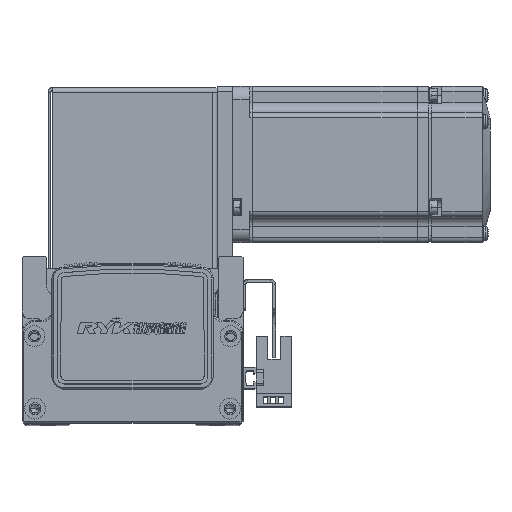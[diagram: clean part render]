
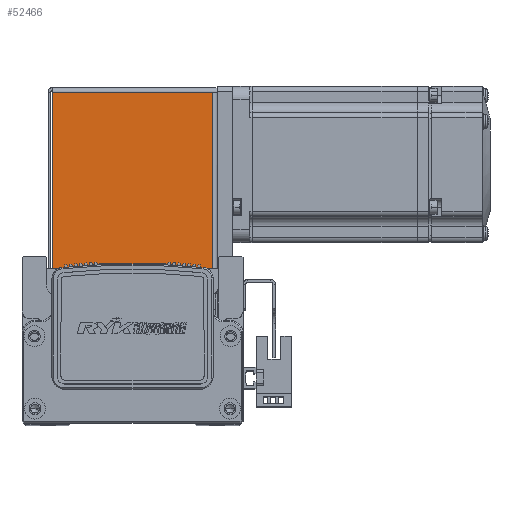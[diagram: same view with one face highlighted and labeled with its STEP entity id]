
A CAD part, top view. The second image highlights one B-rep face of the part: STEP entity #52466.
In plain terms, the highlighted planar face has unit normal (0, 0, 1) as drawn and (0, 0, -1) by its records, which use the part's own axes.
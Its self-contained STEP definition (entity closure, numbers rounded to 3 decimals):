
#10118 = VERTEX_POINT ( 'NONE', #64612 ) ;
#10131 = VERTEX_POINT ( 'NONE', #64607 ) ;
#10191 = VERTEX_POINT ( 'NONE', #64700 ) ;
#10194 = VERTEX_POINT ( 'NONE', #64712 ) ;
#10536 = EDGE_LOOP ( 'NONE', ( #11766, #11699, #11780, #11778 ) ) ;
#11699 = ORIENTED_EDGE ( 'NONE', *, *, #58792, .F. ) ;
#11766 = ORIENTED_EDGE ( 'NONE', *, *, #59060, .T. ) ;
#11778 = ORIENTED_EDGE ( 'NONE', *, *, #58913, .T. ) ;
#11780 = ORIENTED_EDGE ( 'NONE', *, *, #59025, .T. ) ;
#27312 = VECTOR ( 'NONE', #54305, 1000. ) ;
#27325 = LINE ( 'NONE', #54302, #27312 ) ;
#27394 = LINE ( 'NONE', #54362, #27468 ) ;
#27468 = VECTOR ( 'NONE', #54374, 1000. ) ;
#28443 = LINE ( 'NONE', #29865, #28448 ) ;
#28448 = VECTOR ( 'NONE', #29902, 1000. ) ;
#28547 = VECTOR ( 'NONE', #54238, 1000. ) ;
#28557 = LINE ( 'NONE', #54231, #28547 ) ;
#29865 = CARTESIAN_POINT ( 'NONE',  ( 32.5, 0.737, -35. ) ) ;
#29902 = DIRECTION ( 'NONE',  ( 1., 0., 0. ) ) ;
#40731 = PLANE ( 'NONE',  #49602 ) ;
#40733 = DIRECTION ( 'NONE',  ( 0., 0., 1. ) ) ;
#40741 = CARTESIAN_POINT ( 'NONE',  ( 0., 0., -35. ) ) ;
#40746 = DIRECTION ( 'NONE',  ( 0., -1., 0. ) ) ;
#42456 = FACE_OUTER_BOUND ( 'NONE', #10536, .T. ) ;
#49602 = AXIS2_PLACEMENT_3D ( 'NONE', #40741, #40733, #40746 ) ;
#52466 = ADVANCED_FACE ( 'NONE', ( #42456 ), #40731, .F. ) ;
#54231 = CARTESIAN_POINT ( 'NONE',  ( 0., 68.5, -35. ) ) ;
#54238 = DIRECTION ( 'NONE',  ( 1., 0., 0. ) ) ;
#54302 = CARTESIAN_POINT ( 'NONE',  ( -30.793, 0., -35. ) ) ;
#54305 = DIRECTION ( 'NONE',  ( 0., 1., 0. ) ) ;
#54362 = CARTESIAN_POINT ( 'NONE',  ( 30.763, 68.5, -35. ) ) ;
#54374 = DIRECTION ( 'NONE',  ( 0., -1., 0. ) ) ;
#58792 = EDGE_CURVE ( 'NONE', #10194, #10131, #28443, .T. ) ;
#58913 = EDGE_CURVE ( 'NONE', #10191, #10118, #28557, .T. ) ;
#59025 = EDGE_CURVE ( 'NONE', #10194, #10191, #27325, .T. ) ;
#59060 = EDGE_CURVE ( 'NONE', #10118, #10131, #27394, .T. ) ;
#64607 = CARTESIAN_POINT ( 'NONE',  ( 30.763, 0.737, -35. ) ) ;
#64612 = CARTESIAN_POINT ( 'NONE',  ( 30.763, 68.5, -35. ) ) ;
#64700 = CARTESIAN_POINT ( 'NONE',  ( -30.793, 68.5, -35. ) ) ;
#64712 = CARTESIAN_POINT ( 'NONE',  ( -30.793, 0.737, -35. ) ) ;
